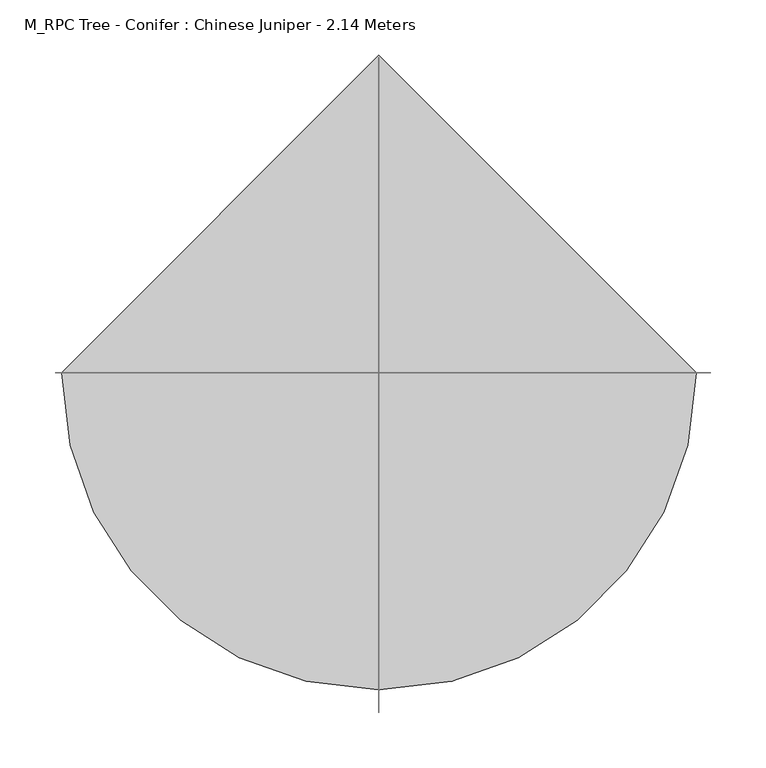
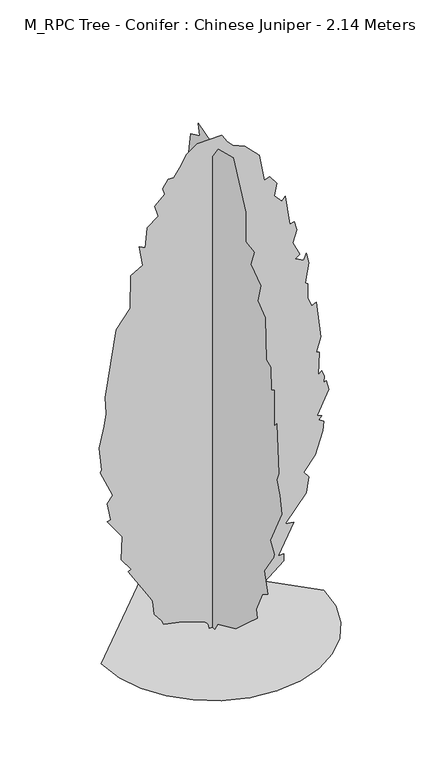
"""IFC4 building model written with IfcOpenShell, lengths in millimetres: geographic element geometry, M_RPC Tree - Conifer : Chinese Juniper - 2.14 Meters."""

from ifc_helpers import new_model, si_unit, origin, place, context, project, spatial, triangles, source, transform, mapped, element, save


def m_rpc_tree_conifer_chinese_juniper_2_14_meters_d82f7841(model_context):
    return source(origin(), model_context, "Body", "Tessellation", [
        triangles([(-9.0446049, 4e-07, 8e-07), (-11.2361499, -2e-07, 11.2669642), (-17.1493654, -4e-07, 19.0872456), (-77.5336304, 9e-07, 41.3102601), (-126.5887939, 2.5e-06, 51.7195402), (-131.2906144, 2e-06, 63.4739327), (-150.234925, 1.3e-06, 87.7248234), (-154.7997263, -7e-07, 124.5969551), (-161.8529295, -1.2e-06, 138.7022532), (-218.2734864, -4e-06, 228.0352452), (-210.9736595, -4.6e-06, 232.4221504), (-235.9376153, -5.6e-06, 267.4185971), (-233.4075736, -9.4e-06, 329.4911164), (-272.3442594, -1.09e-05, 383.1949605), (-262.9403094, -1.15e-05, 385.5447807), (-271.9789474, -1.39e-05, 433.0511106), (-258.237526, -1.56e-05, 451.3692876), (-291.1505788, -1.85e-05, 524.2479787), (-286.4494123, -1.9e-05, 528.9491452), (-293.5019796, -2.25e-05, 592.4223058), (-280.7432199, -2.63e-05, 647.8011566), (-274.6940615, -2.85e-05, 679.4061316), (-277.0454441, -3.1e-05, 724.0729546), (-248.8351566, -4.28e-05, 900.3887913), (-213.5723199, -4.71e-05, 947.4069969), (-211.6660046, -5.24e-05, 1035.1629049), (-180.6592489, -5.49e-05, 1053.1971239), (-190.0632171, -5.77e-05, 1107.26628), (-174.01347, -5.78e-05, 1098.0585571), (-168.9054969, -6.13e-05, 1151.933103), (-140.6940921, -6.38e-05, 1173.0908232), (-150.0977332, -6.52e-05, 1203.6524752), (-124.2378836, -6.77e-05, 1227.161578), (-128.9397042, -6.85e-05, 1243.6181316), (-114.834406, -7.04e-05, 1264.7758518), (-100.7291078, -7.1e-05, 1264.7758518), (-84.5453573, -7.29e-05, 1285.7883774), (-68.3204619, -7.55e-05, 1316.2894226), (-39.210302, -7.79e-05, 1336.0018822), (23.382732, -8.07e-05, 1336.9861244), (37.9731477, -8e-05, 1314.1437687), (52.0784482, -7.98e-05, 1300.0386703), (83.4385389, -8.03e-05, 1286.7566322), (120.2540425, -7.97e-05, 1248.3192982), (134.3593406, -7.59e-05, 1175.4422058), (148.4646388, -7.68e-05, 1180.1433723), (165.6680491, -7.61e-05, 1155.5320112), (160.2187088, -7.4e-05, 1123.7228336), (179.0266269, -7.35e-05, 1102.5651134), (188.4289782, -7.45e-05, 1111.9691179), (200.1843289, -7.03e-05, 1032.037805), (211.938081, -7.09e-05, 1034.3891876), (218.3302235, -6.98e-05, 1011.1002748), (207.8239607, -6.74e-05, 979.1427778), (226.0432338, -6.59e-05, 940.3544477), (213.7247633, -6.49e-05, 932.968416), (235.4471838, -6.52e-05, 921.5465115), (242.4997511, -6.65e-05, 938.0030651), (249.5523185, -6.51e-05, 909.7927231), (240.1499672, -6.16e-05, 858.0733509), (246.9377252, -6.16e-05, 852.4884447), (245.9949411, -5.93e-05, 814.3014587), (256.604904, -5.83e-05, 789.8974251), (268.3602366, -5.91e-05, 794.5986643), (280.1139886, -5.37e-05, 695.8626852), (268.3602366, -5.1e-05, 658.2484114), (275.6808108, -5.11e-05, 655.7614265), (273.0614213, -4.74e-05, 594.7736884), (282.4653894, -4.82e-05, 601.8262376), (289.5179568, -4.75e-05, 585.3697203), (287.1665741, -4.65e-05, 568.9148017), (294.2191415, -4.69e-05, 571.2645856), (301.2717088, -4.57e-05, 545.4056989), (270.7100387, -4.07e-05, 484.2823586), (282.4653894, -4.09e-05, 479.5811557), (275.4128221, -4.01e-05, 470.1772239), (287.1665741, -4.01e-05, 463.1246384), (284.6939416, -3.85e-05, 437.7873768), (266.008854, -3.42e-05, 378.4921952), (235.4471838, -3.06e-05, 340.8779577), (249.5523185, -3.02e-05, 324.4214404), (241.8425238, -2.75e-05, 283.3534893), (188.4289782, -2.11e-05, 216.2814932), (209.5882971, -2.19e-05, 213.9300924), (169.6226588, -1.55e-05, 136.351343), (183.7278116, -1.61e-05, 136.351343), (183.7278116, -1.5e-05, 117.5442242), (80.2887312, -5.5e-06, 32.9124215), (80.2887312, -6.2e-06, 44.6668094), (9.7624832, -4e-07, 0.0), (0.1966717, 8.6602408, 8.16e-05), (0.1966727, 21.6557457, 8.978763), (0.1966743, 48.6252478, 18.80728), (0.1966756, 112.0991805, 42.3160626), (0.1966784, 145.0115974, 72.8775693), (0.1966778, 130.9062992, 75.2284795), (0.1966832, 181.2196253, 147.7520642), (0.1966841, 166.1701079, 183.3684222), (0.1966861, 208.4855301, 244.4917625), (0.1966871, 203.7843454, 272.7020501), (0.1966901, 234.3444168, 310.3163057), (0.1966925, 244.6193892, 355.3053474), (0.1966918, 239.0472003, 402.001298), (0.1966959, 276.6614377, 458.4218731), (0.1966985, 279.0112398, 514.8440105), (0.1966999, 265.4325265, 561.0167373), (0.1967015, 286.0638072, 634.7393085), (0.1967018, 267.2574878, 660.5981953), (0.1967041, 243.748385, 735.8266703), (0.1967046, 260.2049204, 787.5460424), (0.196707, 241.3970023, 862.7745174), (0.1967079, 217.8894982, 907.4413404), (0.196709, 206.1341475, 1001.4777517), (0.1967081, 192.0289946, 994.4252026), (0.1967118, 192.0289946, 1079.0560106), (0.1967109, 163.8187253, 1086.1086325), (0.1967099, 148.8942638, 1136.3268608), (0.1967113, 140.3097769, 1177.7935884), (0.1967113, 112.0991805, 1206.0039305), (0.1967144, 97.9938823, 1290.6363373), (0.196711, 58.02873, 1309.4426022), (0.1967126, 64.0983086, 1339.7044178), (0.1967093, 7.1275469, 1321.5425903), (0.1967099, 3.9584205, 1281.2324055), (0.1967079, -24.2521648, 1321.1979893), (0.1967057, -92.4277522, 1340.0043995), (0.1967007, -148.8491175, 1224.810268), (0.1966972, -148.8491175, 1144.8805538), (0.1966953, -186.0308869, 1138.2619171), (0.1966942, -170.0066651, 1095.5125643), (0.1966934, -215.3211412, 1064.5792053), (0.1966918, -202.9197179, 1015.5829227), (0.1966892, -235.8311902, 989.7224373), (0.1966866, -240.5339736, 876.8796885), (0.1966854, -259.7279328, 868.6913074), (0.1966826, -261.6916756, 806.3539787), (0.1966824, -275.7968103, 815.7563845), (0.1966806, -275.7968103, 717.0203327), (0.1966781, -287.5505805, 731.1255037), (0.1966745, -296.9545305, 599.4764537), (0.196674, -286.7465598, 577.0840342), (0.1966718, -301.6573139, 543.0543162), (0.196672, -308.7098631, 496.0361106), (0.1966697, -259.340293, 394.9487125), (0.1966678, -275.7968103, 366.7384432), (0.1966699, -274.4057615, 356.779349), (0.1966691, -231.1300055, 293.8613508), (0.196666, -247.5865409, 239.7905778), (0.1966664, -221.7260555, 223.3340605), (0.1966676, -195.8671506, 166.9134855), (0.1966664, -200.5683353, 145.7549841), (0.1966667, -153.5507837, 103.4390805), (0.1966668, -104.1821492, 58.7722711), (0.1966688, -21.9009343, 21.1580313), (0.1966709, -10.1468473, 8.05e-05), (-287.5517251, 0.0, 9.37e-05), (-279.9439954, -65.9328396, 8.94e-05), (-258.2790024, -126.4817328, 8.49e-05), (-224.2907609, -179.9115293, 8.02e-05), (-179.7148662, -224.487424, 7.56e-05), (-126.2850606, -258.4756655, 7.13e-05), (-65.7361674, -280.1406585, 6.73e-05), (0.196684, -287.7483882, 6.4e-05), (66.1295119, -280.1406585, 6.15e-05), (126.678405, -258.4756655, 6.02e-05), (180.1081924, -224.487424, 5.99e-05), (224.6840871, -179.9115293, 6.06e-05), (258.6723287, -126.4815693, 6.23e-05), (280.3373217, -65.9328396, 6.5e-05), (287.9450513, 2.52e-05, 6.86e-05), (0.1966335, 287.7483882, 9.83e-05)], [[57, 58, 59], [27, 28, 29], [87, 88, 89], [49, 50, 51], [13, 14, 15], [83, 84, 85], [74, 75, 76], [63, 64, 65], [68, 69, 70], [71, 72, 73], [9, 10, 11], [85, 86, 87], [85, 87, 89], [51, 52, 53], [54, 55, 56], [90, 1, 2], [66, 67, 68], [45, 46, 47], [17, 18, 19], [68, 70, 71], [45, 47, 48], [31, 32, 33], [76, 77, 78], [89, 90, 2], [89, 2, 3], [57, 59, 60], [51, 53, 54], [25, 26, 27], [39, 40, 41], [56, 57, 60], [71, 73, 74], [34, 35, 36], [33, 34, 36], [4, 5, 6], [60, 61, 62], [80, 81, 82], [38, 39, 41], [37, 38, 41], [37, 41, 42], [29, 30, 31], [15, 16, 17], [36, 37, 42], [33, 36, 42], [31, 33, 42], [31, 42, 43], [31, 43, 44], [31, 44, 45], [29, 31, 45], [29, 45, 48], [27, 29, 48], [25, 27, 48], [25, 48, 49], [25, 49, 51], [25, 51, 54], [25, 54, 56], [25, 56, 60], [25, 60, 62], [24, 25, 62], [23, 24, 62], [22, 23, 62], [22, 62, 63], [22, 63, 65], [22, 65, 66], [22, 66, 68], [21, 22, 68], [20, 21, 68], [19, 20, 68], [17, 19, 68], [17, 68, 71], [17, 71, 74], [15, 17, 74], [13, 15, 74], [13, 74, 76], [13, 76, 78], [13, 78, 79], [13, 79, 80], [12, 13, 80], [11, 12, 80], [9, 11, 80], [9, 80, 82], [9, 82, 83], [9, 83, 85], [9, 85, 89], [9, 89, 3], [9, 3, 4], [8, 9, 4], [8, 4, 6], [7, 8, 6], [138, 139, 140], [94, 95, 96], [136, 137, 138], [121, 122, 123], [112, 113, 114], [128, 129, 130], [121, 123, 124], [125, 126, 127], [124, 125, 127], [114, 115, 116], [147, 148, 149], [130, 131, 132], [124, 127, 128], [134, 135, 136], [154, 155, 91], [154, 91, 92], [150, 151, 152], [96, 97, 98], [119, 120, 121], [119, 121, 124], [119, 124, 128], [118, 119, 128], [117, 118, 128], [116, 117, 128], [116, 128, 130], [114, 116, 130], [114, 130, 132], [112, 114, 132], [112, 132, 133], [112, 133, 134], [112, 134, 136], [111, 112, 136], [110, 111, 136], [109, 110, 136], [109, 136, 138], [109, 138, 140], [109, 140, 141], [108, 109, 141], [107, 108, 141], [106, 107, 141], [105, 106, 141], [104, 105, 141], [103, 104, 141], [103, 141, 142], [103, 142, 143], [103, 143, 144], [102, 103, 144], [101, 102, 144], [100, 101, 144], [100, 144, 145], [100, 145, 146], [100, 146, 147], [100, 147, 149], [100, 149, 150], [100, 150, 152], [100, 152, 153], [100, 153, 154], [99, 100, 154], [98, 99, 154], [96, 98, 154], [96, 154, 92], [96, 92, 93], [96, 93, 94], [170, 171, 156], [169, 170, 156], [169, 156, 157], [168, 169, 157], [168, 157, 158], [168, 158, 159], [167, 168, 159], [166, 167, 159], [166, 159, 160], [166, 160, 161], [166, 161, 162], [166, 162, 163], [166, 163, 164], [166, 164, 165]], closed=False),
    ])


if __name__ == "__main__":
    model = new_model("IFC4")
    model_context = context("Model", 3, world=origin())
    ifc_project = project(units=[si_unit("LENGTHUNIT", "METRE", prefix="MILLI")], contexts=[model_context])
    site = spatial("IfcSite", under=ifc_project)
    building = spatial("IfcBuilding", under=site)
    placement = place(None, origin())
    m_rpc_tree_conifer_chinese_juniper_2_14_meters_shape = m_rpc_tree_conifer_chinese_juniper_2_14_meters_d82f7841(model_context)
    element("IfcGeographicElement", 1, ObjectType="M_RPC Tree - Conifer : Chinese Juniper - 2.14 Meters", at=placement, inside=building, context=model_context, shape_type="MappedRepresentation", body=[
        mapped(m_rpc_tree_conifer_chinese_juniper_2_14_meters_shape, transform((0.0, 0.0, 0.0), x_axis=(1.0, 0.0, 0.0), y_axis=(0.0, 1.0, 0.0), z_axis=(0.0, 0.0, 1.0))),
    ])
    save(model, "model.ifc")
